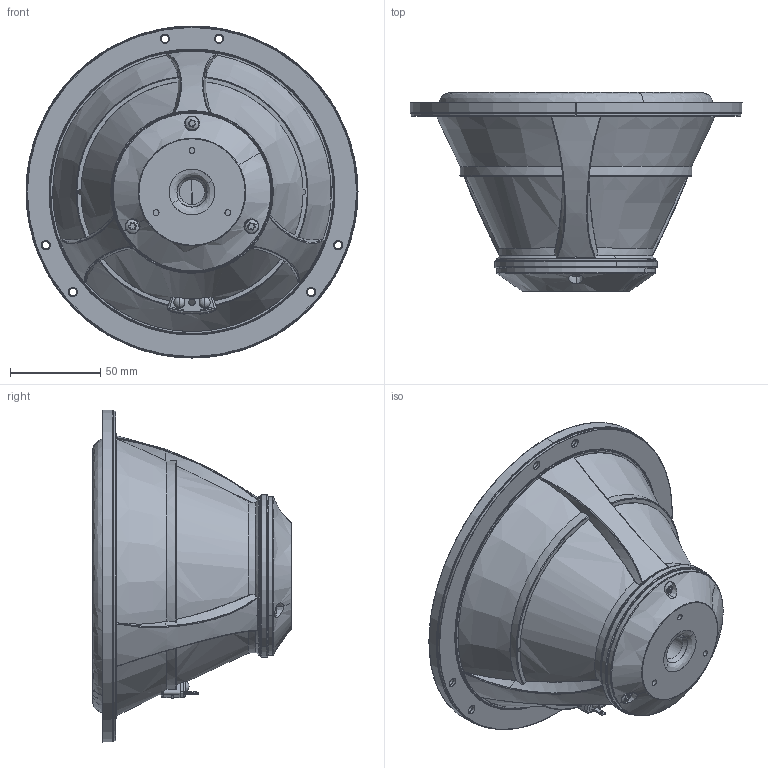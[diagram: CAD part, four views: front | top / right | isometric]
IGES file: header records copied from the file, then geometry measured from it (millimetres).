
Start section: SolidWorks IGES file using analytic representation for surfaces
Global section: file name: W:\TT\18WU\18WU-4741T00.IGS; native system: SolidWorks 2019; preprocessor: SolidWorks 2019; author: mhn; date: 201123.113334; units: millimetre
Bounding box: 184 x 110.25 x 184 mm (x, y, z)
Surface area: 117159.3 mm2 (no closed solid volume)
Topology: 0 solids, 0 shells, 589 faces, 12433 edges, 12424 vertices
Faces by surface type: bspline 297, revolution 292
